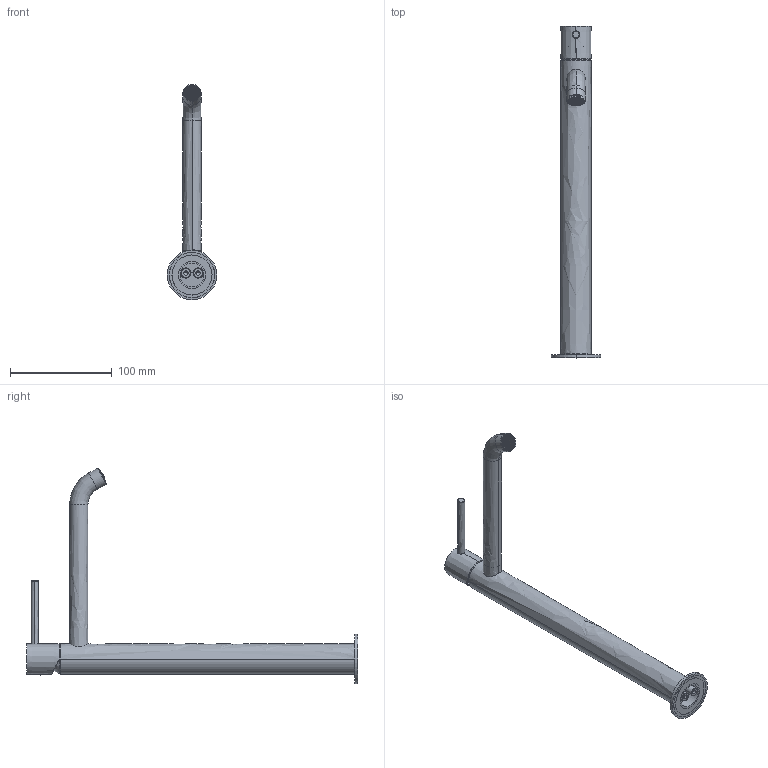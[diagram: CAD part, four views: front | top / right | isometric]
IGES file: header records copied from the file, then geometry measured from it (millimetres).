
Start section:  PTC IGES file: 6906521_sw0001.igs
Global section: file name: 6906521_sw0001.igs; native system: Creo Parametric by PTC Inc.; preprocessor: 2022014; author: volponeff; organization: Unknown; date: 20260312.090605; units: millimetre
Bounding box: 48.8 x 327 x 212.35 mm (x, y, z)
Surface area: 113207.9 mm2 (no closed solid volume)
Topology: 0 solids, 0 shells, 3441 faces, 20292 edges, 20244 vertices
Faces by surface type: bspline 2168, revolution 1194, extrusion 79
